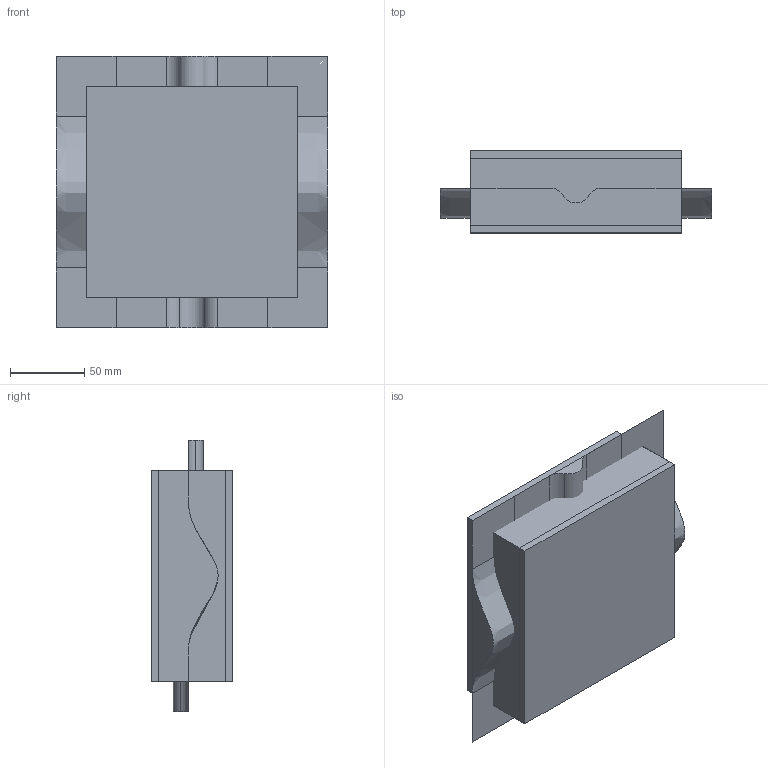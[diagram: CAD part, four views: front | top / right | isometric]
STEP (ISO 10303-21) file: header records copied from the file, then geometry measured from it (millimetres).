
FILE_DESCRIPTION(('CATIA V5 STEP Exchange'),'2;1');
FILE_NAME('C:\_Andres\UNIVERSIDAD\IQS\ASIGNATURAS\DAO\EXF\EXF-16172c\2inicio\Barrenechea_Bonifacio_Ej02_v2.stp','2017-03-05T15:45:13+00:00',('none'),('none'),'CATIA Version 5-6 Release 2014 SP1 HF18','CATIA V5 STEP AP203','none');
FILE_SCHEMA(('CONFIG_CONTROL_DESIGN'));
Length unit declared in the file: millimetre
Products named in the file (1): Barrenechea_Bonifacio_Ej02_v2
Bounding box: 182 x 55 x 182 mm (x, y, z)
Surface area: 209772.9 mm2
Topology: 3 solids, 10 shells, 72 faces, 205 edges, 150 vertices
Faces by surface type: bspline 32, plane 32, cylinder 6, extrusion 2
Entity records: 6650 total; most frequent: CARTESIAN_POINT 5333, ORIENTED_EDGE 288, DIRECTION 151, EDGE_CURVE 132, VERTEX_POINT 84, VECTOR 77, LINE 75, ADVANCED_FACE 72
